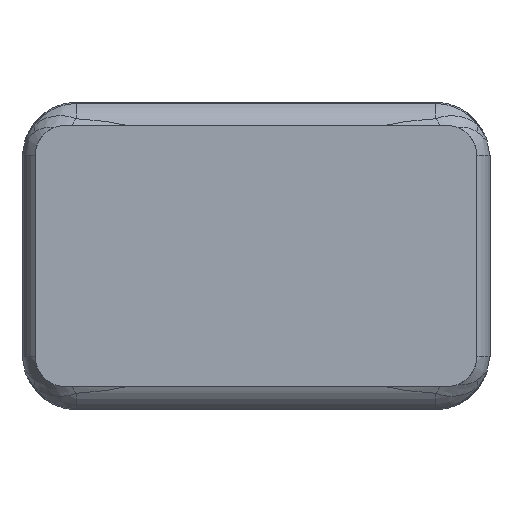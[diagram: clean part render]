
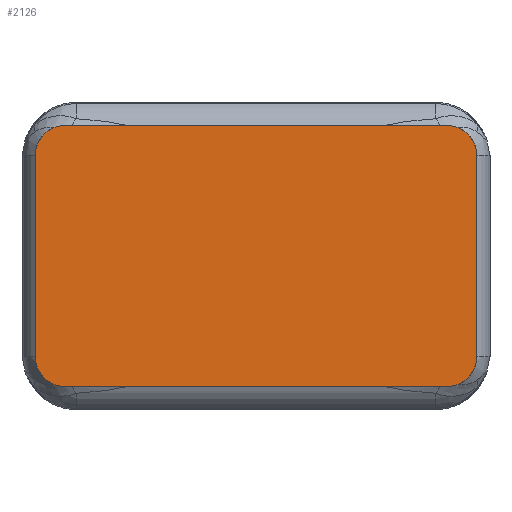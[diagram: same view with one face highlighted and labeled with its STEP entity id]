
A CAD part, front view. The second image highlights one B-rep face of the part: STEP entity #2126.
In plain terms, the highlighted planar face has unit normal (0, -1, 0).
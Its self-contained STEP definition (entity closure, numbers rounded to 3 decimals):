
#72=CARTESIAN_POINT('',(31.75,-584.,-16.75));
#73=DIRECTION('',(0.,-1.,0.));
#74=DIRECTION('',(0.,0.,-1.));
#75=AXIS2_PLACEMENT_3D('',#72,#73,#74);
#132=DIRECTION('',(-1.,0.,0.));
#133=VECTOR('',#132,63.5);
#134=CARTESIAN_POINT('',(31.75,-584.,21.75));
#135=LINE('',#134,#133);
#210=CARTESIAN_POINT('',(-31.75,-584.,16.75));
#211=DIRECTION('',(0.,-1.,0.));
#212=DIRECTION('',(0.,0.,1.));
#213=AXIS2_PLACEMENT_3D('',#210,#211,#212);
#233=DIRECTION('',(0.,0.,-1.));
#234=VECTOR('',#233,33.5);
#235=CARTESIAN_POINT('',(-36.75,-584.,16.75));
#236=LINE('',#235,#234);
#245=CARTESIAN_POINT('',(-31.75,-584.,-16.75));
#246=DIRECTION('',(0.,-1.,0.));
#247=DIRECTION('',(-1.,0.,0.));
#248=AXIS2_PLACEMENT_3D('',#245,#246,#247);
#268=DIRECTION('',(1.,0.,0.));
#269=VECTOR('',#268,63.5);
#270=CARTESIAN_POINT('',(-31.75,-584.,-21.75));
#271=LINE('',#270,#269);
#409=DIRECTION('',(0.,0.,1.));
#410=VECTOR('',#409,33.5);
#411=CARTESIAN_POINT('',(36.75,-584.,-16.75));
#412=LINE('',#411,#410);
#421=CARTESIAN_POINT('',(31.75,-584.,16.75));
#422=DIRECTION('',(0.,-1.,0.));
#423=DIRECTION('',(1.,0.,0.));
#424=AXIS2_PLACEMENT_3D('',#421,#422,#423);
#1964=CARTESIAN_POINT('',(31.75,-584.,-21.75));
#1965=CARTESIAN_POINT('',(36.75,-584.,-16.75));
#1966=VERTEX_POINT('',#1964);
#1967=VERTEX_POINT('',#1965);
#1968=CARTESIAN_POINT('',(36.75,-584.,16.75));
#1969=VERTEX_POINT('',#1968);
#1970=CARTESIAN_POINT('',(31.75,-584.,21.75));
#1971=VERTEX_POINT('',#1970);
#1972=CARTESIAN_POINT('',(-31.75,-584.,21.75));
#1973=CARTESIAN_POINT('',(-36.75,-584.,16.75));
#1974=VERTEX_POINT('',#1972);
#1975=VERTEX_POINT('',#1973);
#1976=CARTESIAN_POINT('',(-36.75,-584.,-16.75));
#1977=VERTEX_POINT('',#1976);
#1978=CARTESIAN_POINT('',(-31.75,-584.,-21.75));
#1979=VERTEX_POINT('',#1978);
#2104=CARTESIAN_POINT('',(0.,-584.,0.));
#2105=DIRECTION('',(0.,1.,0.));
#2106=DIRECTION('',(0.,0.,1.));
#2107=AXIS2_PLACEMENT_3D('',#2104,#2105,#2106);
#2108=PLANE('',#2107);
#2110=ORIENTED_EDGE('',*,*,#2109,.F.);
#2112=ORIENTED_EDGE('',*,*,#2111,.F.);
#2114=ORIENTED_EDGE('',*,*,#2113,.F.);
#2115=ORIENTED_EDGE('',*,*,#2091,.F.);
#2117=ORIENTED_EDGE('',*,*,#2116,.F.);
#2119=ORIENTED_EDGE('',*,*,#2118,.F.);
#2121=ORIENTED_EDGE('',*,*,#2120,.F.);
#2123=ORIENTED_EDGE('',*,*,#2122,.F.);
#2124=EDGE_LOOP('',(#2110,#2112,#2114,#2115,#2117,#2119,#2121,#2123));
#2125=FACE_OUTER_BOUND('',#2124,.F.);
#76=CIRCLE('',#75,5.);
#214=CIRCLE('',#213,5.);
#249=CIRCLE('',#248,5.);
#425=CIRCLE('',#424,5.);
#2091=EDGE_CURVE('',#1966,#1967,#76,.T.);
#2109=EDGE_CURVE('',#1971,#1974,#135,.T.);
#2111=EDGE_CURVE('',#1969,#1971,#425,.T.);
#2113=EDGE_CURVE('',#1967,#1969,#412,.T.);
#2116=EDGE_CURVE('',#1979,#1966,#271,.T.);
#2118=EDGE_CURVE('',#1977,#1979,#249,.T.);
#2120=EDGE_CURVE('',#1975,#1977,#236,.T.);
#2122=EDGE_CURVE('',#1974,#1975,#214,.T.);
#2126=ADVANCED_FACE('',(#2125),#2108,.F.);
